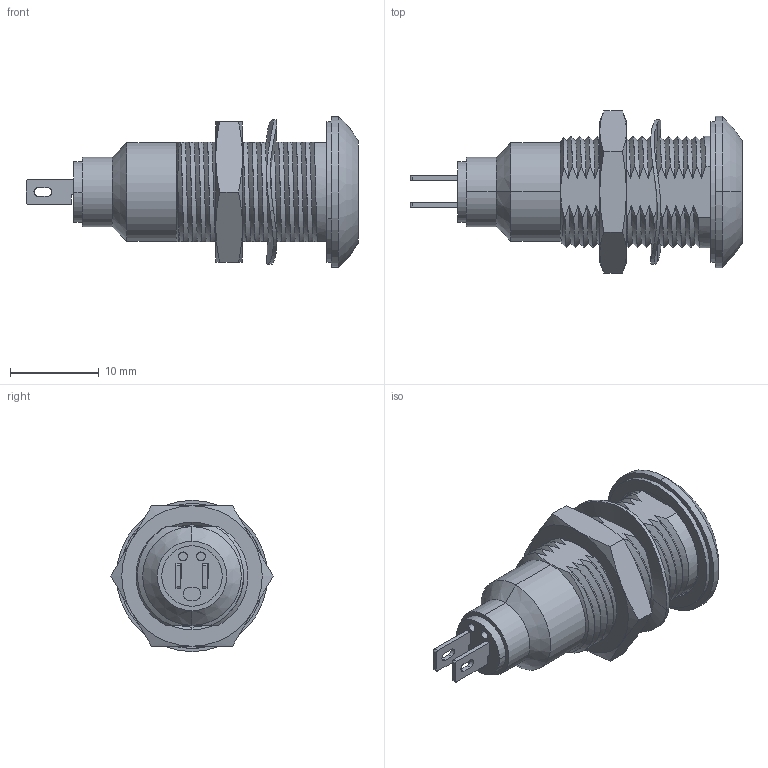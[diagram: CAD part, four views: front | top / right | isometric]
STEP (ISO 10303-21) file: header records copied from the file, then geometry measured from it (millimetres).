
FILE_DESCRIPTION (( 'STEP AP203' ), '1' );
FILE_NAME ('699 Series Below 50V.STEP', '2016-08-04T15:17:12', ( '' ), ( '' ), 'SwSTEP 2.0', 'SolidWorks 2016', '' );
FILE_SCHEMA (( 'CONFIG_CONTROL_DESIGN' ));
Length unit declared in the file: millimetre
Products named in the file (8): COM3579; COM7807HALFTAG; COM7865_COM7865; COM7808_NEW; 699 Series  Below 50V; 10FDR; COM5000; M8SSCWASHER
Assembly tree (8 placements, depth 2):
  699 Series  Below 50V
    COM7865_COM7865
    COM5000
    10FDR
    M8SSCWASHER
    COM7808_NEW
    COM7807HALFTAG  x2
    COM3579
Bounding box: 37.35 x 18.24 x 17 mm (x, y, z)
Volume: 2814.6 mm3; surface area: 3909.9 mm2
Topology: 8 solids, 8 shells, 464 faces, 1089 edges, 674 vertices
Faces by surface type: cylinder 137, torus 136, plane 103, bspline 72, cone 16
Entity records: 69209 total; most frequent: CARTESIAN_POINT 58635, ORIENTED_EDGE 2076, DIRECTION 2026, EDGE_CURVE 1038, AXIS2_PLACEMENT_3D 868, VERTEX_POINT 640, EDGE_LOOP 498, CIRCLE 484
